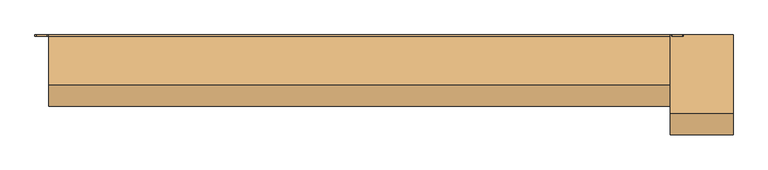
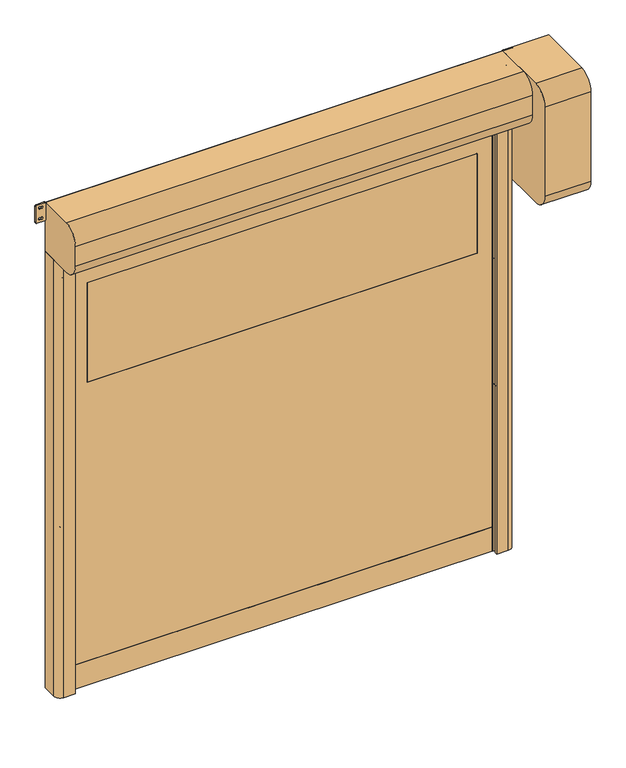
"""IFC4 building model written with IfcOpenShell, lengths in millimetres: door geometry, DO_WPB_Dynamicroll_BMP : Dynamicroll-90."""

import ifcopenshell
import ifcopenshell.guid

model = None  # the IFC model being written
_history = None  # IfcOwnerHistory: only IFC2X3 demands one
_inside = {}  # id of a spatial element -> (the spatial element, [elements in it])
_under = {}  # id of a project, library or spatial element -> (it, [spatial elements below it])
_declared = {}  # id of a project -> (the project, [libraries it declares])
_typed = {}  # id of a type object -> (the type object, [elements of that type])
_made_of = {}  # id of a material, layer set ... -> (it, [elements and type objects made of it])


def new_model(schema):
    """Start an empty IFC model of exactly this schema.

    Asked for "IFC4X3", IfcOpenShell would pick the latest addendum, in which some entities
    have other attributes; the version numbers below select the first issue.
    IFC2X3 requires an IfcOwnerHistory on every rooted entity: one is made here for all.
    """
    global model, _history
    if schema == "IFC4X3":
        model = ifcopenshell.file(schema_version=(4, 3, 0, 0))
    else:
        model = ifcopenshell.file(schema=schema)
    _inside.clear()
    _under.clear()
    _declared.clear()
    _typed.clear()
    _made_of.clear()
    _history = None
    if model.schema == "IFC2X3":
        org = make("IfcOrganization", Name="unknown")
        user = make(
            "IfcPersonAndOrganization",
            ThePerson=make("IfcPerson", FamilyName="unknown"),
            TheOrganization=org,
        )
        app = make(
            "IfcApplication",
            ApplicationDeveloper=org,
            Version="unknown",
            ApplicationFullName="unknown",
            ApplicationIdentifier="unknown",
        )
        _history = make(
            "IfcOwnerHistory",
            OwningUser=user,
            OwningApplication=app,
            ChangeAction="ADDED",
            CreationDate=0,
        )
    return model


def make(cls, **values):
    """One entity of the class cls with the attributes given. An attribute that is None is left unset."""
    return model.create_entity(
        cls, **{name: value for name, value in values.items() if value is not None}
    )


def rooted(cls, **values):
    """An entity with a GlobalId (a new one), such as an element, a storey or a relation."""
    return make(cls, GlobalId=ifcopenshell.guid.new(), OwnerHistory=_history, **values)


def si_unit(unit_type, name, prefix=None):
    """IfcSIUnit, for example si_unit("LENGTHUNIT", "METRE", prefix="MILLI")."""
    return make("IfcSIUnit", UnitType=unit_type, Prefix=prefix, Name=name)


def assignment(units):
    """IfcUnitAssignment: the units of a project."""
    return None if units is None else make("IfcUnitAssignment", Units=units)


def point(xyz):
    """IfcCartesianPoint."""
    return None if xyz is None else make("IfcCartesianPoint", Coordinates=xyz)


def direction(xyz):
    """IfcDirection."""
    return None if xyz is None else make("IfcDirection", DirectionRatios=xyz)


def frame(location, z_axis=None, x_axis=None):
    """IfcAxis2Placement3D, a coordinate frame: its origin and axes. An axis left out is left unset."""
    return make(
        "IfcAxis2Placement3D",
        Location=point(location),
        Axis=direction(z_axis),
        RefDirection=direction(x_axis),
    )


def frame_2d(location, x_axis=None):
    """IfcAxis2Placement2D, a coordinate frame in the plane: its origin and x axis."""
    return make(
        "IfcAxis2Placement2D", Location=point(location), RefDirection=direction(x_axis)
    )


def origin():
    """The frame at (0, 0, 0) with its axes left unset."""
    return frame((0.0, 0.0, 0.0))


def origin_with_axes():
    """The frame at (0, 0, 0) with the z axis (0, 0, 1) and the x axis (1, 0, 0) written out."""
    return frame((0.0, 0.0, 0.0), z_axis=(0.0, 0.0, 1.0), x_axis=(1.0, 0.0, 0.0))


def place(relative_to, where):
    """IfcLocalPlacement: puts the frame where relative to a parent placement (None: the world)."""
    return make(
        "IfcLocalPlacement", PlacementRelTo=relative_to, RelativePlacement=where
    )


def context(
    kind, dimensions, precision=None, world=None, true_north=None, identifier=None
):
    """IfcGeometricRepresentationContext, for example the 3D "Model" context."""
    return make(
        "IfcGeometricRepresentationContext",
        ContextIdentifier=identifier,
        ContextType=kind,
        CoordinateSpaceDimension=dimensions,
        Precision=precision,
        WorldCoordinateSystem=world,
        TrueNorth=true_north,
    )


def project(units=None, contexts=None):
    """IfcProject with its units and contexts."""
    return rooted(
        "IfcProject",
        Name="project",
        RepresentationContexts=contexts,
        UnitsInContext=assignment(units),
    )


def spatial(cls, under=None, at=None, **own):
    """A site, building, storey or space (cls), placed at a placement, below another one or the project."""
    s = rooted(cls, ObjectPlacement=at, **own)
    if under is not None:
        _under.setdefault(under.id(), (under, []))[1].append(s)
    return s


def polyline(points):
    """IfcPolyline through the points."""
    return make("IfcPolyline", Points=[point(p) for p in points])


def circle_curve(where, radius):
    """IfcCircle in the frame where."""
    return make("IfcCircle", Position=where, Radius=radius)


def trimmed(basis, trim1, trim2, sense, master):
    """IfcTrimmedCurve: the piece of a basis curve between two trims."""
    return make(
        "IfcTrimmedCurve",
        BasisCurve=basis,
        Trim1=trim1,
        Trim2=trim2,
        SenseAgreement=sense,
        MasterRepresentation=master,
    )


def segment(curve, same_sense, transition):
    """IfcCompositeCurveSegment."""
    return make(
        "IfcCompositeCurveSegment",
        Transition=transition,
        SameSense=same_sense,
        ParentCurve=curve,
    )


def composite_curve(segments, self_intersect=None):
    """IfcCompositeCurve: segments joined end to end."""
    return make("IfcCompositeCurve", Segments=segments, SelfIntersect=self_intersect)


def outline(outer, holes=None, kind="AREA"):
    """IfcArbitraryClosedProfileDef: a profile drawn as a closed curve; with holes, ...WithVoids."""
    if holes is None:
        return make("IfcArbitraryClosedProfileDef", ProfileType=kind, OuterCurve=outer)
    return make(
        "IfcArbitraryProfileDefWithVoids",
        ProfileType=kind,
        OuterCurve=outer,
        InnerCurves=holes,
    )


def extrude(swept, where, along, depth):
    """IfcExtrudedAreaSolid: the profile swept, set in the frame where, extruded along a direction by depth."""
    return make(
        "IfcExtrudedAreaSolid",
        SweptArea=swept,
        Position=where,
        ExtrudedDirection=direction(along),
        Depth=depth,
    )


def shape(context_of_items, identifier, shape_type, items):
    """IfcShapeRepresentation: the items that make up one representation, for example the "Body"."""
    return make(
        "IfcShapeRepresentation",
        ContextOfItems=context_of_items,
        RepresentationIdentifier=identifier,
        RepresentationType=shape_type,
        Items=items,
    )


def source(mapping_origin, context_of_items, identifier, shape_type, items):
    """IfcRepresentationMap: a shape defined once, which mapped items show again and again."""
    return make(
        "IfcRepresentationMap",
        MappingOrigin=mapping_origin,
        MappedRepresentation=shape(context_of_items, identifier, shape_type, items),
    )


def transform(
    local_origin,
    x_axis=None,
    y_axis=None,
    z_axis=None,
    scale=None,
    scale2=None,
    scale3=None,
    uniform=True,
):
    """IfcCartesianTransformationOperator3D, or its non-uniform kind. x_axis, y_axis, z_axis: its Axis1, 2, 3."""
    if uniform:
        return make(
            "IfcCartesianTransformationOperator3D",
            Axis1=direction(x_axis),
            Axis2=direction(y_axis),
            LocalOrigin=point(local_origin),
            Scale=scale,
            Axis3=direction(z_axis),
        )
    return make(
        "IfcCartesianTransformationOperator3DnonUniform",
        Axis1=direction(x_axis),
        Axis2=direction(y_axis),
        LocalOrigin=point(local_origin),
        Scale=scale,
        Axis3=direction(z_axis),
        Scale2=scale2,
        Scale3=scale3,
    )


def mapped(mapping_source, mapping_target):
    """IfcMappedItem: shows the shape of a source again, moved by a transform."""
    return make(
        "IfcMappedItem", MappingSource=mapping_source, MappingTarget=mapping_target
    )


def made_of(thing, what):
    """Note that an element or type object is made of a material, layer set ...; save() writes the relation."""
    if what is not None:
        _made_of.setdefault(what.id(), (what, []))[1].append(thing)
    return thing


def element(
    cls,
    number,
    at=None,
    inside=None,
    cuts=None,
    type_object=None,
    material=None,
    context=None,
    identifier="Body",
    shape_type=None,
    held_by="IfcProductDefinitionShape",
    body=None,
    shapes=None,
    **own,
):
    """One element of the class cls, such as IfcWall. Its Tag is "e" and its number.

    at: its placement. inside: the storey or other place that contains it. cuts: it is an
    opening in that element (IfcRelVoidsElement). A single representation is given by context,
    identifier, shape_type and body (its items); several are given by shapes. held_by: the class
    of the entity that holds the representations. save() writes the other relations.
    """
    e = rooted(cls, Tag="e%d" % number, ObjectPlacement=at, **own)
    if body is not None:
        shapes = [shape(context, identifier, shape_type, body)]
    if shapes is not None:
        e.Representation = make(held_by, Representations=shapes)
    if inside is not None:
        _inside.setdefault(inside.id(), (inside, []))[1].append(e)
    if cuts is not None:
        rooted(
            "IfcRelVoidsElement", RelatingBuildingElement=cuts, RelatedOpeningElement=e
        )
    if type_object is not None:
        _typed.setdefault(type_object.id(), (type_object, []))[1].append(e)
    return made_of(e, material)


def aggregate(whole, parts):
    """IfcRelAggregates: a whole, such as a stair, and the parts it consists of."""
    return rooted("IfcRelAggregates", RelatingObject=whole, RelatedObjects=parts)


def save(model, path):
    """Write the relations noted so far, then the file.

    IfcRelAggregates (storeys below a building ...), IfcRelContainedInSpatialStructure (elements
    in a storey), IfcRelDefinesByType, IfcRelAssociatesMaterial and IfcRelDeclares: one each for
    every whole, place, type object, material and project.
    """
    for whole, parts in _under.values():
        aggregate(whole, parts)
    for where, things in _inside.values():
        rooted(
            "IfcRelContainedInSpatialStructure",
            RelatedElements=things,
            RelatingStructure=where,
        )
    for kind, things in _typed.values():
        rooted("IfcRelDefinesByType", RelatedObjects=things, RelatingType=kind)
    for what, things in _made_of.values():
        rooted("IfcRelAssociatesMaterial", RelatedObjects=things, RelatingMaterial=what)
    for by, libraries in _declared.values():
        rooted("IfcRelDeclares", RelatingContext=by, RelatedDefinitions=libraries)
    model.write(path)


def door_3f42d8dd(model_context):
    return source(origin(), model_context, "Body", "SweptSolid", [
        extrude(outline(composite_curve([segment(trimmed(circle_curve(frame_2d((1416.6666667, 1024.0)), 6.0), [point((1422.6666667, 1024.0))], [point((1410.6666667, 1024.0))], False, "CARTESIAN"), True, "CONTINUOUS"), segment(polyline([(1410.6666667, 1024.0), (1410.6666667, 1042.0)]), True, "CONTINUOUS"), segment(trimmed(circle_curve(frame_2d((1416.6666667, 1042.0)), 6.0), [point((1410.6666667, 1042.0))], [point((1422.6666667, 1042.0))], False, "CARTESIAN"), True, "CONTINUOUS"), segment(polyline([(1422.6666667, 1042.0), (1422.6666667, 1024.0)]), True, "CONTINUOUS")], self_intersect=False)), frame((0.0, -20.0, 0.0), z_axis=(0.0, 1.0, 0.0), x_axis=(0.0, 0.0, 1.0)), (0.0, 0.0, 1.0), 20.0),
        extrude(outline(composite_curve([segment(trimmed(circle_curve(frame_2d((783.3333333, 1024.0)), 6.0), [point((789.3333333, 1024.0))], [point((777.3333333, 1024.0))], False, "CARTESIAN"), True, "CONTINUOUS"), segment(polyline([(777.3333333, 1024.0), (777.3333333, 1042.0)]), True, "CONTINUOUS"), segment(trimmed(circle_curve(frame_2d((783.3333333, 1042.0)), 6.0), [point((777.3333333, 1042.0))], [point((789.3333333, 1042.0))], False, "CARTESIAN"), True, "CONTINUOUS"), segment(polyline([(789.3333333, 1042.0), (789.3333333, 1024.0)]), True, "CONTINUOUS")], self_intersect=False)), frame((0.0, -20.0, 0.0), z_axis=(0.0, 1.0, 0.0), x_axis=(0.0, 0.0, 1.0)), (0.0, 0.0, 1.0), 20.0),
        extrude(outline(composite_curve([segment(trimmed(circle_curve(frame_2d((2050.0, 1024.0)), 6.0), [point((2056.0, 1024.0))], [point((2044.0, 1024.0))], False, "CARTESIAN"), True, "CONTINUOUS"), segment(polyline([(2044.0, 1024.0), (2044.0, 1042.0)]), True, "CONTINUOUS"), segment(trimmed(circle_curve(frame_2d((2050.0, 1042.0)), 6.0), [point((2044.0, 1042.0))], [point((2056.0, 1042.0))], False, "CARTESIAN"), True, "CONTINUOUS"), segment(polyline([(2056.0, 1042.0), (2056.0, 1024.0)]), True, "CONTINUOUS")], self_intersect=False)), frame((0.0, -20.0, 0.0), z_axis=(0.0, 1.0, 0.0), x_axis=(0.0, 0.0, 1.0)), (0.0, 0.0, 1.0), 20.0),
        extrude(outline(composite_curve([segment(trimmed(circle_curve(frame_2d((150.0, 1024.0)), 6.0), [point((156.0, 1024.0))], [point((144.0, 1024.0))], False, "CARTESIAN"), True, "CONTINUOUS"), segment(polyline([(144.0, 1024.0), (144.0, 1042.0)]), True, "CONTINUOUS"), segment(trimmed(circle_curve(frame_2d((150.0, 1042.0)), 6.0), [point((144.0, 1042.0))], [point((156.0, 1042.0))], False, "CARTESIAN"), True, "CONTINUOUS"), segment(polyline([(156.0, 1042.0), (156.0, 1024.0)]), True, "CONTINUOUS")], self_intersect=False)), frame((0.0, -20.0, 0.0), z_axis=(0.0, 1.0, 0.0), x_axis=(0.0, 0.0, 1.0)), (0.0, 0.0, 1.0), 20.0),
        extrude(outline(composite_curve([segment(polyline([(1422.6666667, -1024.0), (1422.6666667, -1042.0)]), True, "CONTINUOUS"), segment(trimmed(circle_curve(frame_2d((1416.6666667, -1042.0)), 6.0), [point((1422.6666667, -1042.0))], [point((1410.6666667, -1042.0))], False, "CARTESIAN"), True, "CONTINUOUS"), segment(polyline([(1410.6666667, -1042.0), (1410.6666667, -1024.0)]), True, "CONTINUOUS"), segment(trimmed(circle_curve(frame_2d((1416.6666667, -1024.0)), 6.0), [point((1410.6666667, -1024.0))], [point((1422.6666667, -1024.0))], False, "CARTESIAN"), True, "CONTINUOUS")], self_intersect=False)), frame((0.0, -20.0, 0.0), z_axis=(0.0, 1.0, 0.0), x_axis=(0.0, 0.0, 1.0)), (0.0, 0.0, 1.0), 20.0),
        extrude(outline(composite_curve([segment(polyline([(789.3333333, -1024.0), (789.3333333, -1042.0)]), True, "CONTINUOUS"), segment(trimmed(circle_curve(frame_2d((783.3333333, -1042.0)), 6.0), [point((789.3333333, -1042.0))], [point((777.3333333, -1042.0))], False, "CARTESIAN"), True, "CONTINUOUS"), segment(polyline([(777.3333333, -1042.0), (777.3333333, -1024.0)]), True, "CONTINUOUS"), segment(trimmed(circle_curve(frame_2d((783.3333333, -1024.0)), 6.0), [point((777.3333333, -1024.0))], [point((789.3333333, -1024.0))], False, "CARTESIAN"), True, "CONTINUOUS")], self_intersect=False)), frame((0.0, -20.0, 0.0), z_axis=(0.0, 1.0, 0.0), x_axis=(0.0, 0.0, 1.0)), (0.0, 0.0, 1.0), 20.0),
        extrude(outline(composite_curve([segment(polyline([(2056.0, -1024.0), (2056.0, -1042.0)]), True, "CONTINUOUS"), segment(trimmed(circle_curve(frame_2d((2050.0, -1042.0)), 6.0), [point((2056.0, -1042.0))], [point((2044.0, -1042.0))], False, "CARTESIAN"), True, "CONTINUOUS"), segment(polyline([(2044.0, -1042.0), (2044.0, -1024.0)]), True, "CONTINUOUS"), segment(trimmed(circle_curve(frame_2d((2050.0, -1024.0)), 6.0), [point((2044.0, -1024.0))], [point((2056.0, -1024.0))], False, "CARTESIAN"), True, "CONTINUOUS")], self_intersect=False)), frame((0.0, -20.0, 0.0), z_axis=(0.0, 1.0, 0.0), x_axis=(0.0, 0.0, 1.0)), (0.0, 0.0, 1.0), 20.0),
        extrude(outline(composite_curve([segment(polyline([(156.0, -1024.0), (156.0, -1042.0)]), True, "CONTINUOUS"), segment(trimmed(circle_curve(frame_2d((150.0, -1042.0)), 6.0), [point((156.0, -1042.0))], [point((144.0, -1042.0))], False, "CARTESIAN"), True, "CONTINUOUS"), segment(polyline([(144.0, -1042.0), (144.0, -1024.0)]), True, "CONTINUOUS"), segment(trimmed(circle_curve(frame_2d((150.0, -1024.0)), 6.0), [point((144.0, -1024.0))], [point((156.0, -1024.0))], False, "CARTESIAN"), True, "CONTINUOUS")], self_intersect=False)), frame((0.0, -20.0, 0.0), z_axis=(0.0, 1.0, 0.0), x_axis=(0.0, 0.0, 1.0)), (0.0, 0.0, 1.0), 20.0),
        extrude(outline(composite_curve([segment(trimmed(circle_curve(frame_2d((1526.0, 929.0)), 1.0), [point((1525.0, 929.0))], [point((1526.0, 930.0))], False, "CARTESIAN"), True, "CONTINUOUS"), segment(polyline([(1526.0, 930.0), (2024.0, 930.0)]), True, "CONTINUOUS"), segment(trimmed(circle_curve(frame_2d((2024.0, 929.0)), 1.0), [point((2024.0, 930.0))], [point((2025.0, 929.0))], False, "CARTESIAN"), True, "CONTINUOUS"), segment(polyline([(2025.0, 929.0), (2025.0, -929.0)]), True, "CONTINUOUS"), segment(trimmed(circle_curve(frame_2d((2024.0, -929.0)), 1.0), [point((2025.0, -929.0))], [point((2024.0, -930.0))], False, "CARTESIAN"), True, "CONTINUOUS"), segment(polyline([(2024.0, -930.0), (1526.0, -930.0)]), True, "CONTINUOUS"), segment(trimmed(circle_curve(frame_2d((1526.0, -929.0)), 1.0), [point((1526.0, -930.0))], [point((1525.0, -929.0))], False, "CARTESIAN"), True, "CONTINUOUS"), segment(polyline([(1525.0, -929.0), (1525.0, 929.0)]), True, "CONTINUOUS")], self_intersect=False)), frame((0.0, -68.5, 0.0), z_axis=(0.0, 1.0, 0.0), x_axis=(0.0, 0.0, 1.0)), (0.0, 0.0, 1.0), 7.0),
        extrude(outline(polyline([(120.0, -1012.0), (120.0, 1012.0), (2325.0, 1012.0), (2325.0, -1012.0), (120.0, -1012.0)]), holes=[composite_curve([segment(trimmed(circle_curve(frame_2d((1526.0, 929.0)), 1.0), [point((1526.0, 930.0))], [point((1525.0, 929.0))], True, "CARTESIAN"), True, "CONTINUOUS"), segment(polyline([(1525.0, 929.0), (1525.0, -929.0)]), True, "CONTINUOUS"), segment(trimmed(circle_curve(frame_2d((1526.0, -929.0)), 1.0), [point((1525.0, -929.0))], [point((1526.0, -930.0))], True, "CARTESIAN"), True, "CONTINUOUS"), segment(polyline([(1526.0, -930.0), (2024.0, -930.0)]), True, "CONTINUOUS"), segment(trimmed(circle_curve(frame_2d((2024.0, -929.0)), 1.0), [point((2024.0, -930.0))], [point((2025.0, -929.0))], True, "CARTESIAN"), True, "CONTINUOUS"), segment(polyline([(2025.0, -929.0), (2025.0, 929.0)]), True, "CONTINUOUS"), segment(trimmed(circle_curve(frame_2d((2024.0, 929.0)), 1.0), [point((2025.0, 929.0))], [point((2024.0, 930.0))], True, "CARTESIAN"), True, "CONTINUOUS"), segment(polyline([(2024.0, 930.0), (1526.0, 930.0)]), True, "CONTINUOUS")], self_intersect=False)]), frame((0.0, -68.5, 0.0), z_axis=(0.0, 1.0, 0.0), x_axis=(0.0, 0.0, 1.0)), (0.0, 0.0, 1.0), 7.0),
        extrude(outline(polyline([(-1012.0, -59.5), (1012.0, -59.5), (1012.0, -70.5), (-1012.0, -70.5), (-1012.0, -59.5)])), origin_with_axes(), (0.0, 0.0, 1.0), 120.0),
        extrude(outline(composite_curve([segment(trimmed(circle_curve(frame_2d((2363.75, 1095.75)), 5.75), [point((2363.75, 1090.0))], [point((2358.0, 1095.75))], False, "CARTESIAN"), True, "CONTINUOUS"), segment(polyline([(2358.0, 1095.75), (2358.0, 1133.25)]), True, "CONTINUOUS"), segment(trimmed(circle_curve(frame_2d((2363.75, 1133.25)), 5.75), [point((2358.0, 1133.25))], [point((2363.75, 1139.0))], False, "CARTESIAN"), True, "CONTINUOUS"), segment(polyline([(2363.75, 1139.0), (2444.25, 1139.0)]), True, "CONTINUOUS"), segment(trimmed(circle_curve(frame_2d((2444.25, 1133.25)), 5.75), [point((2444.25, 1139.0))], [point((2450.0, 1133.25))], False, "CARTESIAN"), True, "CONTINUOUS"), segment(polyline([(2450.0, 1133.25), (2450.0, 1095.75)]), True, "CONTINUOUS"), segment(trimmed(circle_curve(frame_2d((2444.25, 1095.75)), 5.75), [point((2450.0, 1095.75))], [point((2444.25, 1090.0))], False, "CARTESIAN"), True, "CONTINUOUS"), segment(polyline([(2444.25, 1090.0), (2363.75, 1090.0)]), True, "CONTINUOUS")], self_intersect=False), holes=[composite_curve([segment(trimmed(circle_curve(frame_2d((2431.5, 1118.75)), 5.75), [point((2437.25, 1118.75))], [point((2425.75, 1118.75))], True, "CARTESIAN"), True, "CONTINUOUS"), segment(polyline([(2425.75, 1118.75), (2425.75, 1110.25)]), True, "CONTINUOUS"), segment(trimmed(circle_curve(frame_2d((2431.5, 1110.25)), 5.75), [point((2425.75, 1110.25))], [point((2437.25, 1110.25))], True, "CARTESIAN"), True, "CONTINUOUS"), segment(polyline([(2437.25, 1110.25), (2437.25, 1118.75)]), True, "CONTINUOUS")], self_intersect=False), composite_curve([segment(trimmed(circle_curve(frame_2d((2376.5, 1118.75)), 5.75), [point((2382.25, 1118.75))], [point((2370.75, 1118.75))], True, "CARTESIAN"), True, "CONTINUOUS"), segment(polyline([(2370.75, 1118.75), (2370.75, 1110.25)]), True, "CONTINUOUS"), segment(trimmed(circle_curve(frame_2d((2376.5, 1110.25)), 5.75), [point((2370.75, 1110.25))], [point((2382.25, 1110.25))], True, "CARTESIAN"), True, "CONTINUOUS"), segment(polyline([(2382.25, 1110.25), (2382.25, 1118.75)]), True, "CONTINUOUS")], self_intersect=False)]), frame((0.0, -5.0, 0.0), z_axis=(0.0, 1.0, 0.0), x_axis=(0.0, 0.0, 1.0)), (0.0, 0.0, 1.0), 5.0),
        extrude(outline(composite_curve([segment(trimmed(circle_curve(frame_2d((2363.75, -1133.25)), 5.75), [point((2363.75, -1139.0))], [point((2358.0, -1133.25))], False, "CARTESIAN"), True, "CONTINUOUS"), segment(polyline([(2358.0, -1133.25), (2358.0, -1095.75)]), True, "CONTINUOUS"), segment(trimmed(circle_curve(frame_2d((2363.75, -1095.75)), 5.75), [point((2358.0, -1095.75))], [point((2363.75, -1090.0))], False, "CARTESIAN"), True, "CONTINUOUS"), segment(polyline([(2363.75, -1090.0), (2444.25, -1090.0)]), True, "CONTINUOUS"), segment(trimmed(circle_curve(frame_2d((2444.25, -1095.75)), 5.75), [point((2444.25, -1090.0))], [point((2450.0, -1095.75))], False, "CARTESIAN"), True, "CONTINUOUS"), segment(polyline([(2450.0, -1095.75), (2450.0, -1133.25)]), True, "CONTINUOUS"), segment(trimmed(circle_curve(frame_2d((2444.25, -1133.25)), 5.75), [point((2450.0, -1133.25))], [point((2444.25, -1139.0))], False, "CARTESIAN"), True, "CONTINUOUS"), segment(polyline([(2444.25, -1139.0), (2363.75, -1139.0)]), True, "CONTINUOUS")], self_intersect=False), holes=[composite_curve([segment(trimmed(circle_curve(frame_2d((2431.5, -1110.25)), 5.75), [point((2437.25, -1110.25))], [point((2425.75, -1110.25))], True, "CARTESIAN"), True, "CONTINUOUS"), segment(polyline([(2425.75, -1110.25), (2425.75, -1118.75)]), True, "CONTINUOUS"), segment(trimmed(circle_curve(frame_2d((2431.5, -1118.75)), 5.75), [point((2425.75, -1118.75))], [point((2437.25, -1118.75))], True, "CARTESIAN"), True, "CONTINUOUS"), segment(polyline([(2437.25, -1118.75), (2437.25, -1110.25)]), True, "CONTINUOUS")], self_intersect=False), composite_curve([segment(trimmed(circle_curve(frame_2d((2376.5, -1110.25)), 5.75), [point((2382.25, -1110.25))], [point((2370.75, -1110.25))], True, "CARTESIAN"), True, "CONTINUOUS"), segment(polyline([(2370.75, -1110.25), (2370.75, -1118.75)]), True, "CONTINUOUS"), segment(trimmed(circle_curve(frame_2d((2376.5, -1118.75)), 5.75), [point((2370.75, -1118.75))], [point((2382.25, -1118.75))], True, "CARTESIAN"), True, "CONTINUOUS"), segment(polyline([(2382.25, -1118.75), (2382.25, -1110.25)]), True, "CONTINUOUS")], self_intersect=False)]), frame((0.0, -5.0, 0.0), z_axis=(0.0, 1.0, 0.0), x_axis=(0.0, 0.0, 1.0)), (0.0, 0.0, 1.0), 5.0),
        extrude(outline(composite_curve([segment(polyline([(-1090.0, 0.0), (-1015.0, 0.0), (-1015.0, -49.2857143), (-1035.0, -55.0), (-1000.0, -55.0), (-1000.0, -61.5), (-1020.0, -61.5), (-1020.0, -68.5), (-1000.0, -68.5), (-1000.0, -75.0), (-1035.0, -75.0), (-1035.0, -90.0), (-1005.0, -90.0), (-1005.0, -100.0), (-1060.0, -100.0)]), True, "CONTINUOUS"), segment(trimmed(circle_curve(frame_2d((-1060.0, -70.0)), 30.0), [point((-1060.0, -100.0))], [point((-1090.0, -70.0))], False, "CARTESIAN"), True, "CONTINUOUS"), segment(polyline([(-1090.0, -70.0), (-1090.0, 0.0)]), True, "CONTINUOUS")], self_intersect=False)), origin_with_axes(), (0.0, 0.0, 1.0), 2200.0),
        extrude(outline(composite_curve([segment(polyline([(1090.0, 0.0), (1090.0, -70.0)]), True, "CONTINUOUS"), segment(trimmed(circle_curve(frame_2d((1060.0, -70.0)), 30.0), [point((1090.0, -70.0))], [point((1060.0, -100.0))], False, "CARTESIAN"), True, "CONTINUOUS"), segment(polyline([(1060.0, -100.0), (1005.0, -100.0), (1005.0, -90.0), (1035.0, -90.0), (1035.0, -75.0), (1000.0, -75.0), (1000.0, -68.5), (1020.0, -68.5), (1020.0, -61.5), (1000.0, -61.5), (1000.0, -55.0), (1035.0, -55.0), (1015.0, -49.2857143), (1015.0, 0.0), (1090.0, 0.0)]), True, "CONTINUOUS")], self_intersect=False)), origin_with_axes(), (0.0, 0.0, 1.0), 2200.0),
        extrude(outline(composite_curve([segment(polyline([(0.0, 2450.0), (0.0, 1850.0), (-275.0, 1850.0)]), True, "CONTINUOUS"), segment(trimmed(circle_curve(frame_2d((-275.0, 1925.0)), 75.0), [point((-275.0, 1850.0))], [point((-350.0, 1925.0))], False, "CARTESIAN"), True, "CONTINUOUS"), segment(polyline([(-350.0, 1925.0), (-350.0, 2375.0)]), True, "CONTINUOUS"), segment(trimmed(circle_curve(frame_2d((-275.0, 2375.0)), 75.0), [point((-350.0, 2375.0))], [point((-275.0, 2450.0))], False, "CARTESIAN"), True, "CONTINUOUS"), segment(polyline([(-275.0, 2450.0), (0.0, 2450.0)]), True, "CONTINUOUS")], self_intersect=False)), frame((1090.0, 0.0, 0.0), z_axis=(1.0, 0.0, 0.0), x_axis=(0.0, 1.0, 0.0)), (0.0, 0.0, 1.0), 220.0),
        extrude(outline(composite_curve([segment(trimmed(circle_curve(frame_2d((-5.0, 2205.0)), 5.0), [point((0.0, 2205.0))], [point((-5.0, 2200.0))], False, "CARTESIAN"), True, "CONTINUOUS"), segment(polyline([(-5.0, 2200.0), (-175.0, 2200.0)]), True, "CONTINUOUS"), segment(trimmed(circle_curve(frame_2d((-175.0, 2275.0)), 75.0), [point((-175.0, 2200.0))], [point((-250.0, 2275.0))], False, "CARTESIAN"), True, "CONTINUOUS"), segment(polyline([(-250.0, 2275.0), (-250.0, 2375.0)]), True, "CONTINUOUS"), segment(trimmed(circle_curve(frame_2d((-175.0, 2375.0)), 75.0), [point((-250.0, 2375.0))], [point((-175.0, 2450.0))], False, "CARTESIAN"), True, "CONTINUOUS"), segment(polyline([(-175.0, 2450.0), (-5.0, 2450.0)]), True, "CONTINUOUS"), segment(trimmed(circle_curve(frame_2d((-5.0, 2445.0)), 5.0), [point((-5.0, 2450.0))], [point((0.0, 2445.0))], False, "CARTESIAN"), True, "CONTINUOUS"), segment(polyline([(0.0, 2445.0), (0.0, 2205.0)]), True, "CONTINUOUS")], self_intersect=False)), frame((-1090.0, 0.0, 0.0), z_axis=(1.0, 0.0, 0.0), x_axis=(0.0, 1.0, 0.0)), (0.0, 0.0, 1.0), 2180.0),
    ])


if __name__ == "__main__":
    model = new_model("IFC4")
    model_context = context("Model", 3, world=origin())
    ifc_project = project(units=[si_unit("LENGTHUNIT", "METRE", prefix="MILLI")], contexts=[model_context])
    site = spatial("IfcSite", under=ifc_project)
    building = spatial("IfcBuilding", under=site)
    placement = place(None, origin())
    door_shape = door_3f42d8dd(model_context)
    element("IfcDoor", 1, ObjectType="DO_WPB_Dynamicroll_BMP : Dynamicroll-90", at=placement, inside=building, context=model_context, shape_type="MappedRepresentation", body=[
        mapped(door_shape, transform((0.0, 0.0, 0.0), x_axis=(1.0, 0.0, 0.0), y_axis=(0.0, 1.0, 0.0), z_axis=(0.0, 0.0, 1.0))),
    ])
    save(model, "model.ifc")
